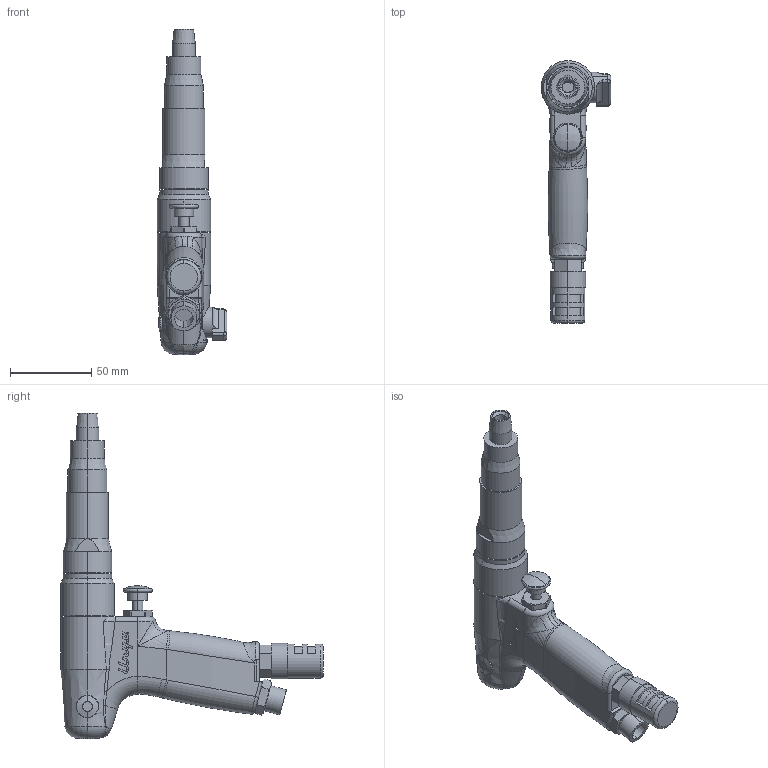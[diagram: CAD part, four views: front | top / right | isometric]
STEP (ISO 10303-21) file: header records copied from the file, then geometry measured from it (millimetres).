
FILE_DESCRIPTION (( 'STEP AP203' ), '1' );
FILE_NAME ('US-3.5PB.STEP', '2006-05-24T07:41:31', ( '' ), ( '' ), 'SwSTEP 2.0', 'SolidWorks 2003240', '' );
FILE_SCHEMA (( 'CONFIG_CONTROL_DESIGN' ));
Length unit declared in the file: millimetre
Products named in the file (10): 4130251_US-3.5PB_蹬怮椔; 9810020_US-3.5PB_蹬怮椔; US-3.5PB; 4143191_US-3.5PB_蹬怮椔; 4140571_US-3.5PB_蹬怮椔; 9174000_US-3.5PB_蹬怮椔; 4130281_US-3.5PB_蹬怮椔; 4102121_US-3.5PB_蹬怮椔; 6031072_US-3.5PB_蹬怮椔; 6061011_US-3.5PB_蹬怮椔
Assembly tree (9 placements, depth 2):
  US-3.5PB
    6061011_US-3.5PB_蹬怮椔
    6031072_US-3.5PB_蹬怮椔
    4130281_US-3.5PB_蹬怮椔
    9174000_US-3.5PB_蹬怮椔
    4102121_US-3.5PB_蹬怮椔
    9810020_US-3.5PB_蹬怮椔
    4143191_US-3.5PB_蹬怮椔
    4140571_US-3.5PB_蹬怮椔
    4130251_US-3.5PB_蹬怮椔
Bounding box: 43 x 162 x 201 mm (x, y, z)
Volume: 224557.4 mm3; surface area: 46642.1 mm2
Topology: 9 solids, 9 shells, 581 faces, 1476 edges, 940 vertices
Faces by surface type: plane 210, cylinder 158, bspline 143, cone 43, torus 21, sphere 6
Entity records: 62548 total; most frequent: CARTESIAN_POINT 48464, ORIENTED_EDGE 2930, DIRECTION 2359, EDGE_CURVE 1465, VERTEX_POINT 937, AXIS2_PLACEMENT_3D 871, EDGE_LOOP 624, LINE 617
